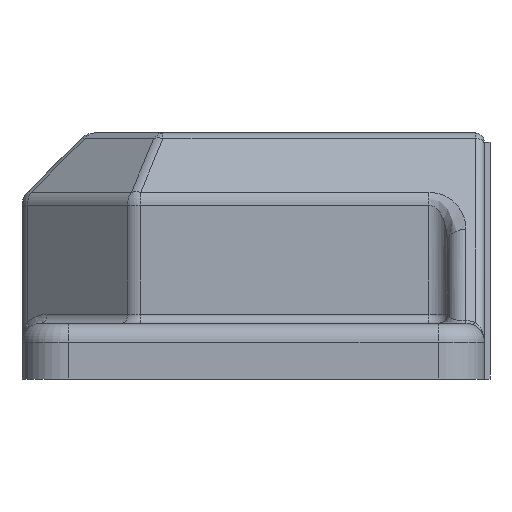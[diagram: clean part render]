
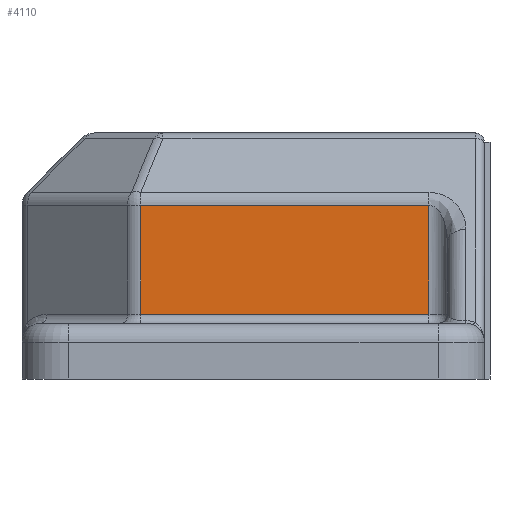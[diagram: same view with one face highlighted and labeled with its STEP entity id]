
A CAD part, left-side view. The second image highlights one B-rep face of the part: STEP entity #4110.
In plain terms, the highlighted planar face has unit normal (-1, 0, 0).
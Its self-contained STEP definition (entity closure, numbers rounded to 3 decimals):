
#102 = DIRECTION ( 'NONE',  ( 0., -1., 0. ) ) ;
#105 = CARTESIAN_POINT ( 'NONE',  ( 10., 3., 3.5 ) ) ;
#334 = EDGE_CURVE ( 'NONE', #2786, #2796, #2977, .T. ) ;
#336 = EDGE_CURVE ( 'NONE', #2682, #2786, #2978, .T. ) ;
#419 = EDGE_CURVE ( 'NONE', #2796, #2766, #4396, .T. ) ;
#662 = CARTESIAN_POINT ( 'NONE',  ( 10., 18.586, 9.386 ) ) ;
#690 = CARTESIAN_POINT ( 'NONE',  ( 10., 18.586, 3.5 ) ) ;
#876 = CARTESIAN_POINT ( 'NONE',  ( 10., 3., 3.5 ) ) ;
#1029 = CARTESIAN_POINT ( 'NONE',  ( 10., 3., 9.386 ) ) ;
#1666 = DIRECTION ( 'NONE',  ( 0., 0., 1. ) ) ;
#2389 = ORIENTED_EDGE ( 'NONE', *, *, #419, .T. ) ;
#2398 = ORIENTED_EDGE ( 'NONE', *, *, #336, .T. ) ;
#2453 = EDGE_LOOP ( 'NONE', ( #3144, #2389, #4020, #2398 ) ) ;
#2682 = VERTEX_POINT ( 'NONE', #1029 ) ;
#2766 = VERTEX_POINT ( 'NONE', #876 ) ;
#2786 = VERTEX_POINT ( 'NONE', #662 ) ;
#2796 = VERTEX_POINT ( 'NONE', #690 ) ;
#2977 = LINE ( 'NONE', #3422, #2979 ) ;
#2978 = LINE ( 'NONE', #3646, #2982 ) ;
#2979 = VECTOR ( 'NONE', #3375, 1000. ) ;
#2982 = VECTOR ( 'NONE', #3602, 1000. ) ;
#3144 = ORIENTED_EDGE ( 'NONE', *, *, #334, .T. ) ;
#3329 = CARTESIAN_POINT ( 'NONE',  ( 10., 3., 9.8 ) ) ;
#3375 = DIRECTION ( 'NONE',  ( 0., 0., -1. ) ) ;
#3422 = CARTESIAN_POINT ( 'NONE',  ( 10., 18.586, 3. ) ) ;
#3602 = DIRECTION ( 'NONE',  ( 0., 1., 0. ) ) ;
#3646 = CARTESIAN_POINT ( 'NONE',  ( 10., 18.586, 9.386 ) ) ;
#3823 = EDGE_CURVE ( 'NONE', #2766, #2682, #4573, .T. ) ;
#4020 = ORIENTED_EDGE ( 'NONE', *, *, #3823, .T. ) ;
#4110 = ADVANCED_FACE ( 'NONE', ( #4881 ), #5648, .F. ) ;
#4396 = LINE ( 'NONE', #105, #4399 ) ;
#4399 = VECTOR ( 'NONE', #102, 1000. ) ;
#4573 = LINE ( 'NONE', #3329, #4583 ) ;
#4583 = VECTOR ( 'NONE', #1666, 1000. ) ;
#4881 = FACE_OUTER_BOUND ( 'NONE', #2453, .T. ) ;
#5307 = AXIS2_PLACEMENT_3D ( 'NONE', #5647, #5652, #5653 ) ;
#5647 = CARTESIAN_POINT ( 'NONE',  ( 10., 19., 3. ) ) ;
#5648 = PLANE ( 'NONE',  #5307 ) ;
#5652 = DIRECTION ( 'NONE',  ( 1., 0., 0. ) ) ;
#5653 = DIRECTION ( 'NONE',  ( 0., 0., -1. ) ) ;
